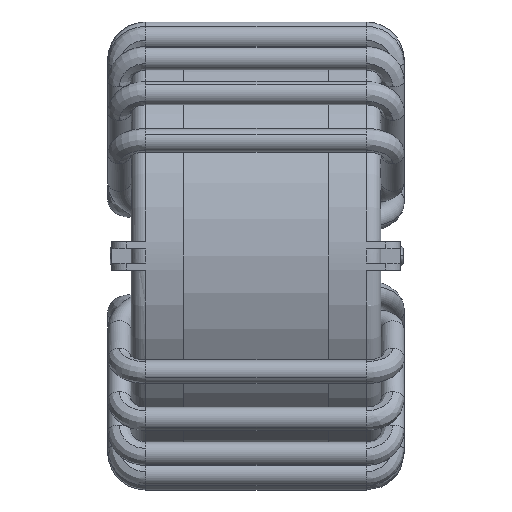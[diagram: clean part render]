
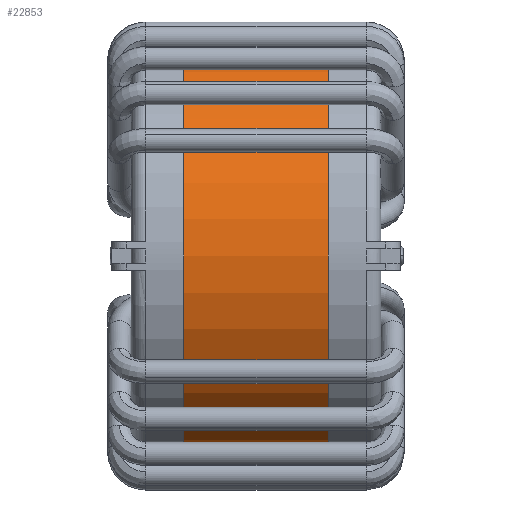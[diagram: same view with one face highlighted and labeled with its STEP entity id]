
A CAD part, left-side view. The second image highlights one B-rep face of the part: STEP entity #22853.
In plain terms, the highlighted cylindrical face has radius 14.717 mm (diameter 29.435 mm), a partial arc.
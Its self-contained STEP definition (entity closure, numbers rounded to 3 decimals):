
#736 = VERTEX_POINT ( 'NONE', #7093 ) ;
#888 = EDGE_CURVE ( 'NONE', #14132, #13002, #20584, .T. ) ;
#1858 = CARTESIAN_POINT ( 'NONE',  ( 0., 5., 0. ) ) ;
#2330 = CARTESIAN_POINT ( 'NONE',  ( 0., -5., 14.718 ) ) ;
#2767 = EDGE_LOOP ( 'NONE', ( #3808, #7207, #10876, #8893 ) ) ;
#3157 = DIRECTION ( 'NONE',  ( 0., -1., 0. ) ) ;
#3808 = ORIENTED_EDGE ( 'NONE', *, *, #11674, .F. ) ;
#3929 = CARTESIAN_POINT ( 'NONE',  ( 0., 5., 0. ) ) ;
#3941 = CARTESIAN_POINT ( 'NONE',  ( 0., 5., -14.718 ) ) ;
#4248 = FACE_OUTER_BOUND ( 'NONE', #2767, .T. ) ;
#5028 = DIRECTION ( 'NONE',  ( 0., 0., -1. ) ) ;
#5486 = DIRECTION ( 'NONE',  ( 0., 0., 1. ) ) ;
#6184 = CARTESIAN_POINT ( 'NONE',  ( 0., 5., -14.718 ) ) ;
#7093 = CARTESIAN_POINT ( 'NONE',  ( 0., -5., -14.718 ) ) ;
#7207 = ORIENTED_EDGE ( 'NONE', *, *, #888, .F. ) ;
#8893 = ORIENTED_EDGE ( 'NONE', *, *, #11924, .T. ) ;
#9876 = CARTESIAN_POINT ( 'NONE',  ( 0., 5., 14.718 ) ) ;
#10687 = DIRECTION ( 'NONE',  ( 0., -1., 0. ) ) ;
#10876 = ORIENTED_EDGE ( 'NONE', *, *, #12576, .T. ) ;
#11674 = EDGE_CURVE ( 'NONE', #13002, #17250, #13926, .T. ) ;
#11924 = EDGE_CURVE ( 'NONE', #736, #17250, #22954, .T. ) ;
#12138 = CARTESIAN_POINT ( 'NONE',  ( 0., -5., 0. ) ) ;
#12576 = EDGE_CURVE ( 'NONE', #14132, #736, #25015, .T. ) ;
#12810 = CYLINDRICAL_SURFACE ( 'NONE', #22424, 14.718 ) ;
#12946 = DIRECTION ( 'NONE',  ( 0., 1., 0. ) ) ;
#13002 = VERTEX_POINT ( 'NONE', #21486 ) ;
#13926 = LINE ( 'NONE', #9876, #20497 ) ;
#14132 = VERTEX_POINT ( 'NONE', #6184 ) ;
#15645 = DIRECTION ( 'NONE',  ( 0., -1., 0. ) ) ;
#17250 = VERTEX_POINT ( 'NONE', #2330 ) ;
#17453 = DIRECTION ( 'NONE',  ( 0., 0., 1. ) ) ;
#17580 = AXIS2_PLACEMENT_3D ( 'NONE', #3929, #22964, #5486 ) ;
#20497 = VECTOR ( 'NONE', #10687, 1000. ) ;
#20584 = CIRCLE ( 'NONE', #17580, 14.718 ) ;
#21486 = CARTESIAN_POINT ( 'NONE',  ( 0., 5., 14.718 ) ) ;
#22424 = AXIS2_PLACEMENT_3D ( 'NONE', #1858, #15645, #5028 ) ;
#22853 = ADVANCED_FACE ( 'NONE', ( #4248 ), #12810, .T. ) ;
#22954 = CIRCLE ( 'NONE', #24823, 14.718 ) ;
#22964 = DIRECTION ( 'NONE',  ( 0., 1., 0. ) ) ;
#24470 = VECTOR ( 'NONE', #3157, 1000. ) ;
#24823 = AXIS2_PLACEMENT_3D ( 'NONE', #12138, #12946, #17453 ) ;
#25015 = LINE ( 'NONE', #3941, #24470 ) ;
